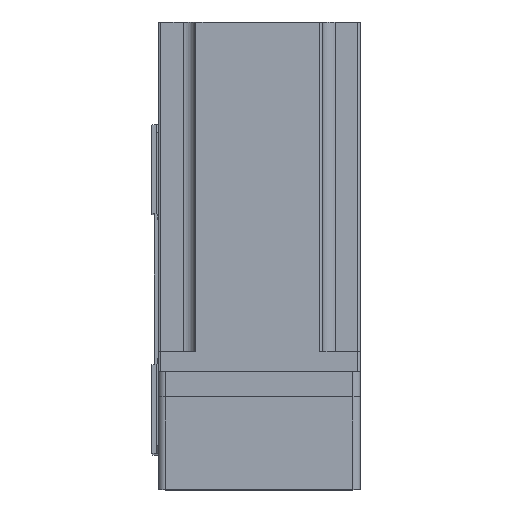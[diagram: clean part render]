
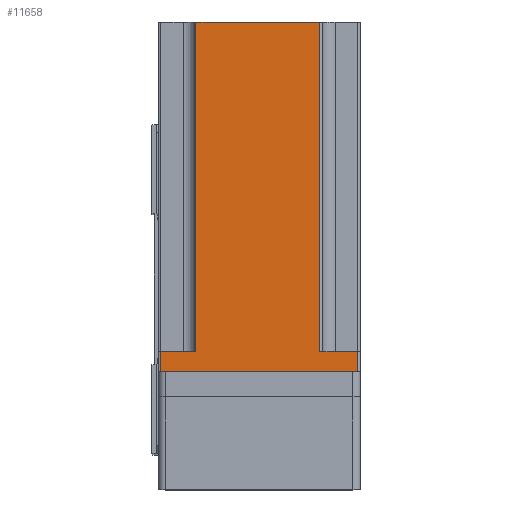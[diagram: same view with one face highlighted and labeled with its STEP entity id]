
A CAD part, top view. The second image highlights one B-rep face of the part: STEP entity #11658.
In plain terms, the highlighted planar face has unit normal (0, 0, 1) as drawn and (-1, 0, 0) by its records, which use the part's own axes.
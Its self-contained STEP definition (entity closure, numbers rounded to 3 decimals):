
#606 = DIRECTION ( 'NONE',  ( 0., 0., 1. ) ) ;
#1072 = DIRECTION ( 'NONE',  ( 0., 0., 1. ) ) ;
#1797 = LINE ( 'NONE', #32683, #9593 ) ;
#1935 = EDGE_CURVE ( 'NONE', #32150, #7674, #21870, .T. ) ;
#1939 = VERTEX_POINT ( 'NONE', #19056 ) ;
#2436 = VERTEX_POINT ( 'NONE', #13383 ) ;
#2574 = ORIENTED_EDGE ( 'NONE', *, *, #1935, .T. ) ;
#4052 = DIRECTION ( 'NONE',  ( 1., 0., 0. ) ) ;
#4171 = VECTOR ( 'NONE', #12530, 1000. ) ;
#4434 = CARTESIAN_POINT ( 'NONE',  ( -40., -39., 0. ) ) ;
#5141 = AXIS2_PLACEMENT_3D ( 'NONE', #23965, #4052, #27339 ) ;
#5554 = EDGE_CURVE ( 'NONE', #1939, #15605, #38088, .T. ) ;
#5696 = ORIENTED_EDGE ( 'NONE', *, *, #5554, .F. ) ;
#6083 = EDGE_CURVE ( 'NONE', #17792, #32150, #11911, .T. ) ;
#7169 = ORIENTED_EDGE ( 'NONE', *, *, #37188, .T. ) ;
#7330 = VECTOR ( 'NONE', #17462, 1000. ) ;
#7548 = EDGE_CURVE ( 'NONE', #15605, #38943, #33106, .T. ) ;
#7674 = VERTEX_POINT ( 'NONE', #35857 ) ;
#8459 = DIRECTION ( 'NONE',  ( 0., -1., 0. ) ) ;
#9593 = VECTOR ( 'NONE', #36035, 1000. ) ;
#11228 = ORIENTED_EDGE ( 'NONE', *, *, #41750, .T. ) ;
#11460 = VECTOR ( 'NONE', #1072, 1000. ) ;
#11658 = ADVANCED_FACE ( 'NONE', ( #42342 ), #27192, .F. ) ;
#11911 = LINE ( 'NONE', #17696, #29664 ) ;
#12133 = VECTOR ( 'NONE', #606, 1000. ) ;
#12530 = DIRECTION ( 'NONE',  ( 0., 0., 1. ) ) ;
#12674 = EDGE_CURVE ( 'NONE', #30275, #7674, #23915, .T. ) ;
#13383 = CARTESIAN_POINT ( 'NONE',  ( -40., 39., 8. ) ) ;
#15052 = VECTOR ( 'NONE', #40603, 1000. ) ;
#15605 = VERTEX_POINT ( 'NONE', #26060 ) ;
#15872 = CARTESIAN_POINT ( 'NONE',  ( -40., -39., 138.3 ) ) ;
#16167 = LINE ( 'NONE', #30778, #7330 ) ;
#17462 = DIRECTION ( 'NONE',  ( 0., 1., 0. ) ) ;
#17696 = CARTESIAN_POINT ( 'NONE',  ( -40., -40., 0. ) ) ;
#17792 = VERTEX_POINT ( 'NONE', #28828 ) ;
#19056 = CARTESIAN_POINT ( 'NONE',  ( -40., 25., 8. ) ) ;
#21201 = CARTESIAN_POINT ( 'NONE',  ( -40., 25., 8. ) ) ;
#21645 = EDGE_CURVE ( 'NONE', #2436, #17792, #1797, .T. ) ;
#21717 = ORIENTED_EDGE ( 'NONE', *, *, #12674, .F. ) ;
#21866 = EDGE_LOOP ( 'NONE', ( #21717, #7169, #39823, #5696, #11228, #34212, #30770, #2574 ) ) ;
#21870 = LINE ( 'NONE', #15872, #4171 ) ;
#23915 = LINE ( 'NONE', #30548, #15052 ) ;
#23965 = CARTESIAN_POINT ( 'NONE',  ( -40., -40., 138.3 ) ) ;
#26060 = CARTESIAN_POINT ( 'NONE',  ( -40., 25., 138.3 ) ) ;
#27192 = PLANE ( 'NONE',  #5141 ) ;
#27339 = DIRECTION ( 'NONE',  ( 0., 0., -1. ) ) ;
#28828 = CARTESIAN_POINT ( 'NONE',  ( -40., 39., 0. ) ) ;
#29664 = VECTOR ( 'NONE', #31153, 1000. ) ;
#29905 = LINE ( 'NONE', #37353, #12133 ) ;
#30275 = VERTEX_POINT ( 'NONE', #42906 ) ;
#30548 = CARTESIAN_POINT ( 'NONE',  ( -40., -40., 8. ) ) ;
#30770 = ORIENTED_EDGE ( 'NONE', *, *, #6083, .T. ) ;
#30778 = CARTESIAN_POINT ( 'NONE',  ( -40., 40., 8. ) ) ;
#31153 = DIRECTION ( 'NONE',  ( 0., -1., 0. ) ) ;
#32150 = VERTEX_POINT ( 'NONE', #4434 ) ;
#32683 = CARTESIAN_POINT ( 'NONE',  ( -40., 39., 138.3 ) ) ;
#33106 = LINE ( 'NONE', #38643, #41970 ) ;
#34212 = ORIENTED_EDGE ( 'NONE', *, *, #21645, .T. ) ;
#35857 = CARTESIAN_POINT ( 'NONE',  ( -40., -39., 8. ) ) ;
#35876 = CARTESIAN_POINT ( 'NONE',  ( -40., -24., 138.3 ) ) ;
#36035 = DIRECTION ( 'NONE',  ( 0., 0., -1. ) ) ;
#37188 = EDGE_CURVE ( 'NONE', #30275, #38943, #29905, .T. ) ;
#37353 = CARTESIAN_POINT ( 'NONE',  ( -40., -24., 138.3 ) ) ;
#38088 = LINE ( 'NONE', #21201, #11460 ) ;
#38643 = CARTESIAN_POINT ( 'NONE',  ( -40., -40., 138.3 ) ) ;
#38943 = VERTEX_POINT ( 'NONE', #35876 ) ;
#39823 = ORIENTED_EDGE ( 'NONE', *, *, #7548, .F. ) ;
#40603 = DIRECTION ( 'NONE',  ( 0., -1., 0. ) ) ;
#41750 = EDGE_CURVE ( 'NONE', #1939, #2436, #16167, .T. ) ;
#41970 = VECTOR ( 'NONE', #8459, 1000. ) ;
#42342 = FACE_OUTER_BOUND ( 'NONE', #21866, .T. ) ;
#42906 = CARTESIAN_POINT ( 'NONE',  ( -40., -24., 8. ) ) ;
